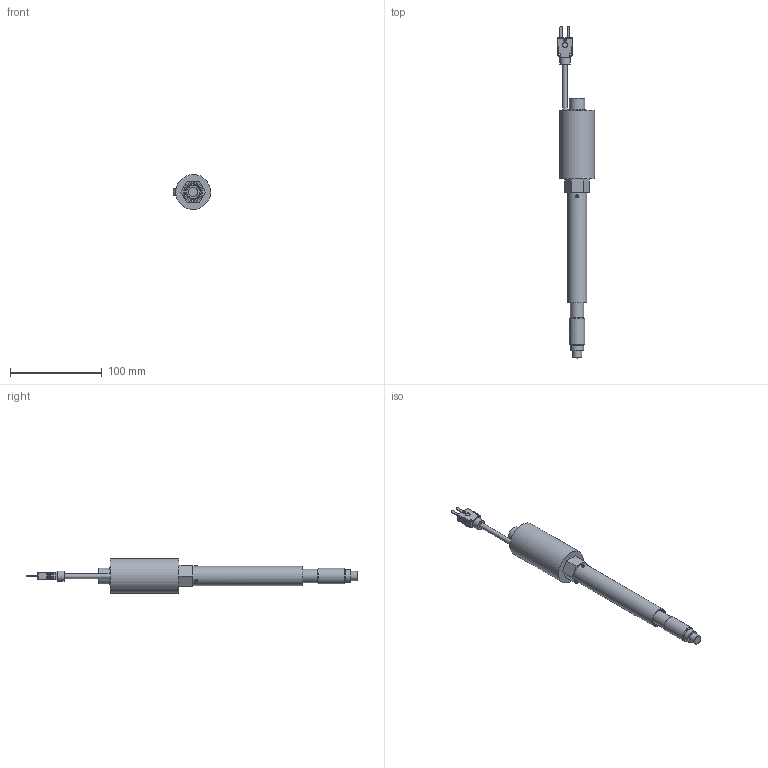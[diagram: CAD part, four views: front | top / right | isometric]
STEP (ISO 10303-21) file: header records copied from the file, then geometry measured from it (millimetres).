
FILE_DESCRIPTION (( 'STEP AP203' ), '1' );
FILE_NAME ('YICZ200PHC-1(0).STEP', '2023-06-29T04:06:30', ( '' ), ( '' ), 'SwSTEP 2.0', 'SolidWorks 2021', '' );
FILE_SCHEMA (( 'CONFIG_CONTROL_DESIGN' ));
Length unit declared in the file: millimetre
Products named in the file (1): YICZ200PHC-1(0)
Bounding box: 40.42 x 361.5 x 37.94 mm (x, y, z)
Volume: 144745.4 mm3; surface area: 39203.8 mm2
Topology: 3 solids, 4 shells, 178 faces, 399 edges, 245 vertices
Faces by surface type: plane 82, cylinder 72, cone 12, sphere 12
Full cylindrical faces by diameter (mm): 2.6 x3, 3 x6, 4 x1, 5.4 x1, 5.5 x1, 10 x1, 11 x1, 14 x1, 14.6 x3, 16.662 x1, 16.9 x2, 17 x2, 19 x1, 21 x1, 38 x1
Entity records: 5061 total; most frequent: CARTESIAN_POINT 1219, DIRECTION 788, ORIENTED_EDGE 694, EDGE_CURVE 347, AXIS2_PLACEMENT_3D 300, EDGE_LOOP 248, VERTEX_POINT 239, FACE_OUTER_BOUND 204
